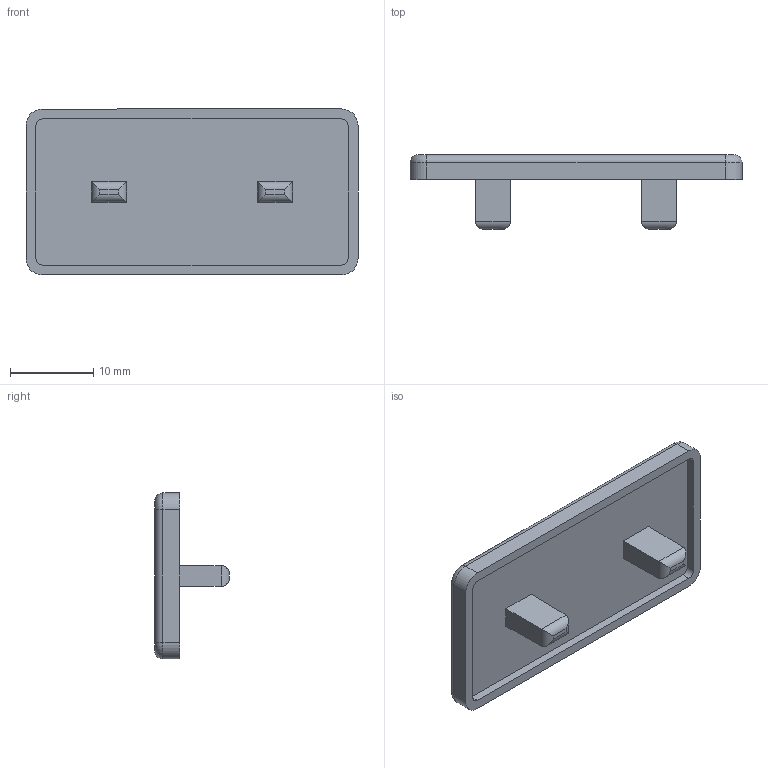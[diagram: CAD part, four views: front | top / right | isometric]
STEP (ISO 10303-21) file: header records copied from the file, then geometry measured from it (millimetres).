
FILE_DESCRIPTION (( 'STEP AP214' ), '1' );
FILE_NAME ('J2C4.step', '2017-05-24T07:36:29', ( 'admin' ), ( '' ), 'SwSTEP 2.0', 'SolidWorks 2014', '' );
FILE_SCHEMA (( 'AUTOMOTIVE_DESIGN' ));
Length unit declared in the file: millimetre
Products named in the file (1): J2C4
Bounding box: 40 x 9 x 20 mm (x, y, z)
Volume: 1849.6 mm3; surface area: 2177.2 mm2
Topology: 1 solids, 1 shells, 45 faces, 104 edges, 64 vertices
Faces by surface type: plane 21, cylinder 20, torus 4
Entity records: 1292 total; most frequent: CARTESIAN_POINT 238, DIRECTION 216, ORIENTED_EDGE 208, EDGE_CURVE 104, AXIS2_PLACEMENT_3D 74, VECTOR 68, LINE 68, VERTEX_POINT 64
